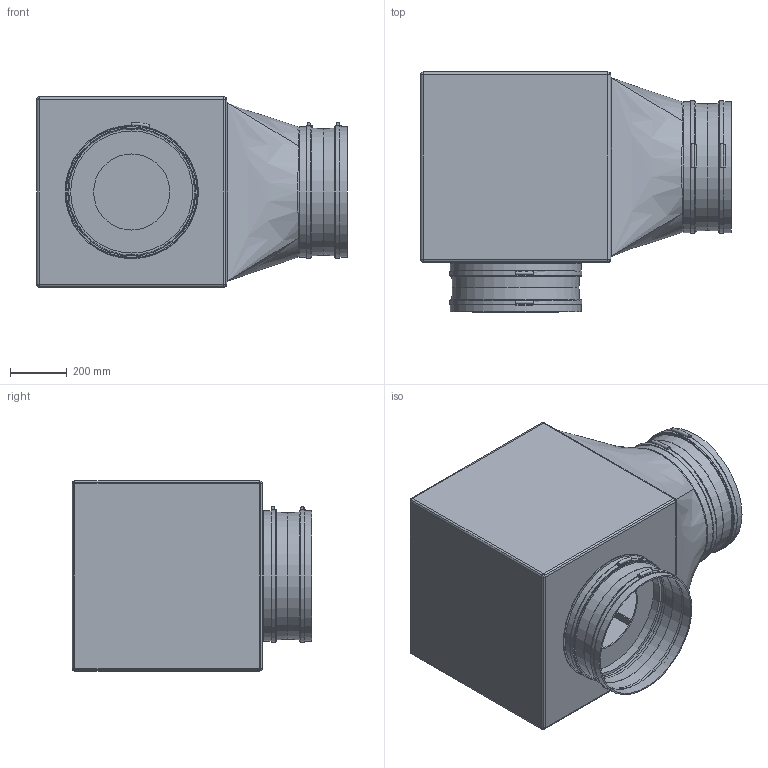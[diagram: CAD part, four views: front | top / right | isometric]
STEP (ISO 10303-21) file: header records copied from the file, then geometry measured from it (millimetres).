
FILE_DESCRIPTION(/* description */ (''),/* implementation_level */ '2;1');
FILE_NAME(/* name */ 'Z:\Output\GBW_EC_450_Radial-05811-003.stp',/* time_stamp */ '2022-09-20T10:47:49+02:00',/* author */ ('jayeshpanchal'),/* organization */ (''),/* preprocessor_version */ 'ST-DEVELOPER v17.2',/* originating_system */ 'Autodesk Inventor 2019',/* authorisation */ '');
FILE_SCHEMA (('AUTOMOTIVE_DESIGN { 1 0 10303 214 3 1 1 }'));
Length unit declared in the file: millimetre
Products named in the file (1): GB-2
Bounding box: 1095 x 845 x 670 mm (x, y, z)
Volume: 15968839.3 mm3; surface area: 7336078.7 mm2
Topology: 9 solids, 10 shells, 139 faces, 326 edges, 222 vertices
Faces by surface type: plane 55, cylinder 48, bspline 16, sphere 8, cone 8, torus 4
Full cylindrical faces by diameter (mm): 268 x1, 430 x1, 440 x1, 450 x2, 451 x8, 460 x2, 461 x8, 467 x4, 470 x1
Entity records: 4851 total; most frequent: CARTESIAN_POINT 1463, DIRECTION 734, ORIENTED_EDGE 648, EDGE_CURVE 328, AXIS2_PLACEMENT_3D 299, VERTEX_POINT 224, CIRCLE 175, EDGE_LOOP 170
